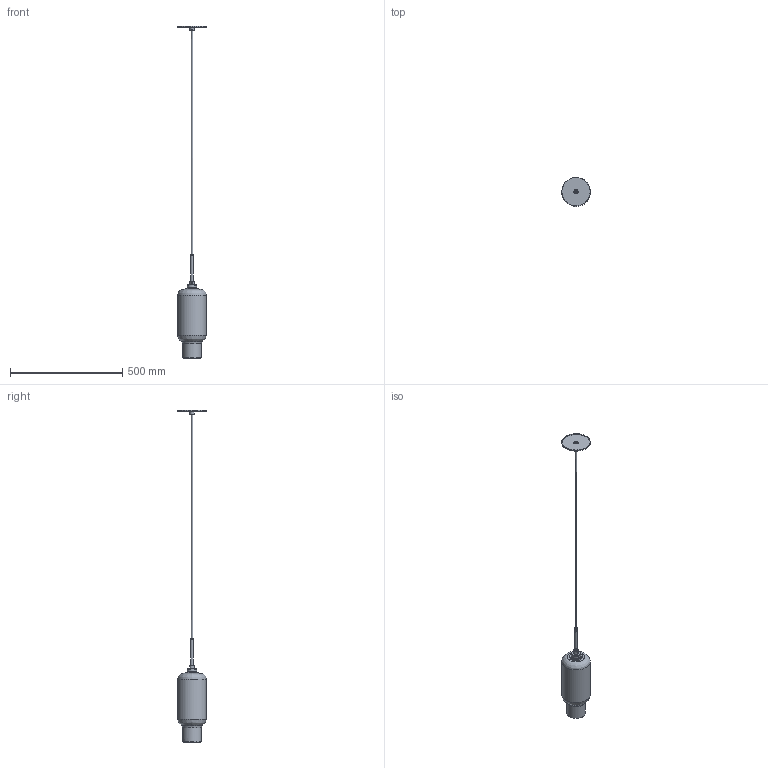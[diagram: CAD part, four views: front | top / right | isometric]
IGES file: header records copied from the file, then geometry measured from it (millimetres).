
Global section: file name: Niche - Pharos Pendant; native system: unknown; preprocessor: unknown; author: unknown; organization: unknown; date: 20220729.160538; units: inch
Bounding box: 127 x 126.84 x 1475.74 mm (x, y, z)
Volume: 821153.1 mm3; surface area: 351803.5 mm2
Topology: 11 solids, 11 shells, 141 faces, 342 edges, 229 vertices
Faces by surface type: bspline 141
